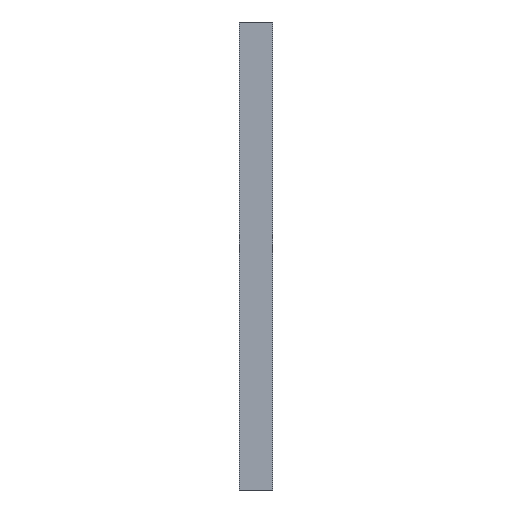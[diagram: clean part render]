
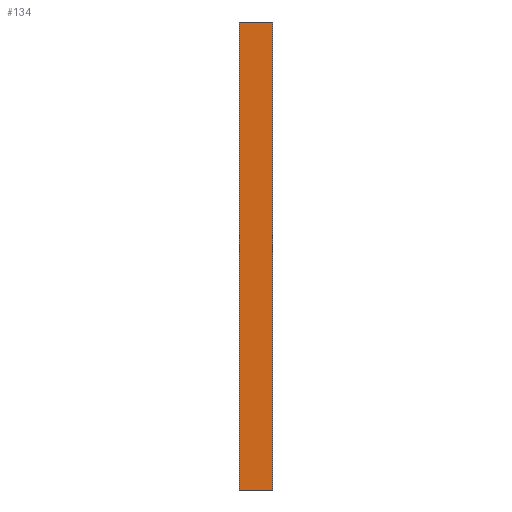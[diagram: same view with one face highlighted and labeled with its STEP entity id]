
A CAD part, left-side view. The second image highlights one B-rep face of the part: STEP entity #134.
In plain terms, the highlighted planar face has unit normal (-1, 0, 0).
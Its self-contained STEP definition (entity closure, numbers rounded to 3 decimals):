
#2 = LINE ( 'NONE', #329, #39 ) ;
#9 = CARTESIAN_POINT ( 'NONE',  ( -5.25, 15., 0. ) ) ;
#10 = CARTESIAN_POINT ( 'NONE',  ( -5.25, -15., 0. ) ) ;
#12 = CARTESIAN_POINT ( 'NONE',  ( -5.25, -15., -417.1 ) ) ;
#31 = VECTOR ( 'NONE', #333, 1000. ) ;
#37 = LINE ( 'NONE', #325, #38 ) ;
#38 = VECTOR ( 'NONE', #322, 1000. ) ;
#39 = VECTOR ( 'NONE', #318, 1000. ) ;
#40 = LINE ( 'NONE', #303, #51 ) ;
#51 = VECTOR ( 'NONE', #300, 1000. ) ;
#67 = FACE_OUTER_BOUND ( 'NONE', #205, .T. ) ;
#98 = EDGE_CURVE ( 'NONE', #317, #337, #191, .T. ) ;
#104 = EDGE_CURVE ( 'NONE', #327, #326, #37, .T. ) ;
#107 = AXIS2_PLACEMENT_3D ( 'NONE', #272, #265, #263 ) ;
#108 = EDGE_CURVE ( 'NONE', #317, #327, #2, .T. ) ;
#119 = EDGE_CURVE ( 'NONE', #337, #326, #40, .T. ) ;
#134 = ADVANCED_FACE ( 'NONE', ( #67 ), #275, .T. ) ;
#169 = ORIENTED_EDGE ( 'NONE', *, *, #98, .F. ) ;
#175 = ORIENTED_EDGE ( 'NONE', *, *, #108, .T. ) ;
#181 = ORIENTED_EDGE ( 'NONE', *, *, #104, .T. ) ;
#182 = ORIENTED_EDGE ( 'NONE', *, *, #119, .F. ) ;
#191 = LINE ( 'NONE', #247, #31 ) ;
#205 = EDGE_LOOP ( 'NONE', ( #182, #169, #175, #181 ) ) ;
#222 = CARTESIAN_POINT ( 'NONE',  ( -5.25, 15., -417.1 ) ) ;
#247 = CARTESIAN_POINT ( 'NONE',  ( -5.25, 15., -417.1 ) ) ;
#263 = DIRECTION ( 'NONE',  ( 0., 0., 1. ) ) ;
#265 = DIRECTION ( 'NONE',  ( -1., 0., 0. ) ) ;
#272 = CARTESIAN_POINT ( 'NONE',  ( -5.25, -15., -417.1 ) ) ;
#275 = PLANE ( 'NONE',  #107 ) ;
#300 = DIRECTION ( 'NONE',  ( 0., -1., 0. ) ) ;
#303 = CARTESIAN_POINT ( 'NONE',  ( -5.25, -15., 0. ) ) ;
#317 = VERTEX_POINT ( 'NONE', #222 ) ;
#318 = DIRECTION ( 'NONE',  ( 0., -1., 0. ) ) ;
#322 = DIRECTION ( 'NONE',  ( 0., 0., 1. ) ) ;
#325 = CARTESIAN_POINT ( 'NONE',  ( -5.25, -15., -417.1 ) ) ;
#326 = VERTEX_POINT ( 'NONE', #10 ) ;
#327 = VERTEX_POINT ( 'NONE', #12 ) ;
#329 = CARTESIAN_POINT ( 'NONE',  ( -5.25, -15., -417.1 ) ) ;
#333 = DIRECTION ( 'NONE',  ( 0., 0., 1. ) ) ;
#337 = VERTEX_POINT ( 'NONE', #9 ) ;
